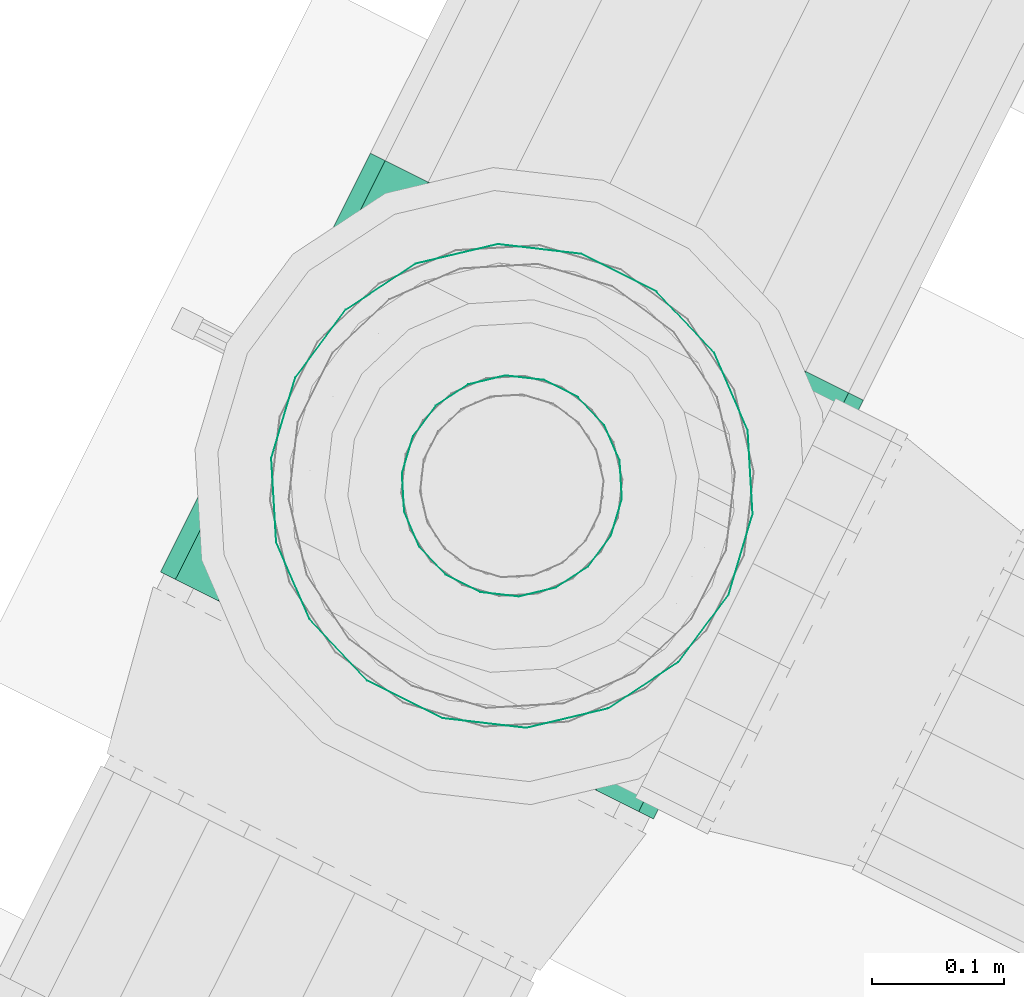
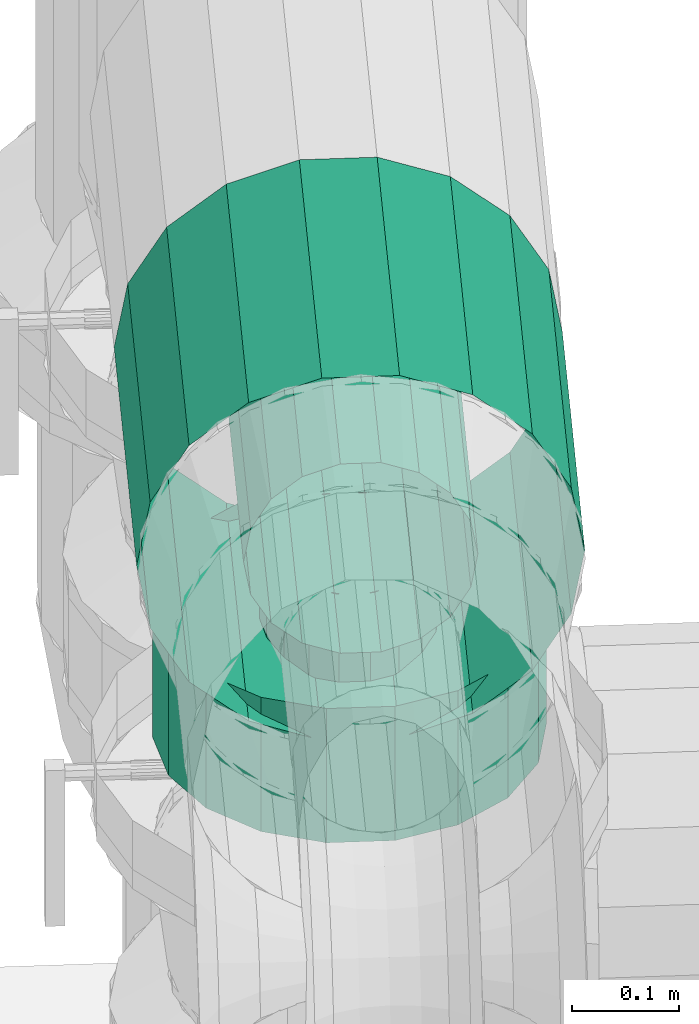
# One storey, part 102 of 152: 1 flow fitting, 1 flow segment.
"""IFC2X3 building model written with IfcOpenShell, lengths in metres."""

from ifc_helpers import new_model, si_unit, derived_unit, direction, frame, origin, place, context, subcontext, project, spatial, face_set, surface_model, source, transform, mapped, material, type_object, type_shapes, element, save


model = new_model("IFC2X3")

# Units and contexts
model_context = context("Model", 3, precision=5.2338327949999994e-05, world=origin(), true_north=direction((0.0, 1.0)))
body_context = subcontext(model_context, "Body", "Model", "MODEL_VIEW")
ifc_project = project(units=[si_unit("LENGTHUNIT", "METRE"), si_unit("AREAUNIT", "SQUARE_METRE"), si_unit("VOLUMEUNIT", "CUBIC_METRE"), si_unit("MASSUNIT", "GRAM", prefix="KILO"), si_unit("PLANEANGLEUNIT", "RADIAN"), derived_unit("THERMALTRANSMITTANCEUNIT", [(si_unit("MASSUNIT", "GRAM", prefix="KILO"), 1), (si_unit("THERMODYNAMICTEMPERATUREUNIT", "KELVIN"), -1), (si_unit("TIMEUNIT", "SECOND"), -3)])], contexts=[model_context])

# Site, building, storey
site_placement = place(None, frame((0.0, 0.0, 0.0), z_axis=(0.0, 0.0, 1.0), x_axis=(0.8939966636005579, -0.4480736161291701, 0.0)))
site = spatial("IfcSite", under=ifc_project, at=site_placement, Name="Default", CompositionType="ELEMENT")
building_placement = place(site_placement, origin())
building = spatial("IfcBuilding", under=site, at=building_placement, CompositionType="ELEMENT")
storey_placement = place(building_placement, frame((0.0, 0.0, 2.7499999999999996)))
storey = spatial("IfcBuildingStorey", under=building, at=storey_placement, Name="1. Obergeschoss", CompositionType="ELEMENT", Elevation=2.7499999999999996)

# Flow fitting
ifc_material = material(Name="IfcSurfaceStyle #9317")
distribution_element_type_1 = type_object("IfcDistributionElementType", Name="Abzweigstück 221678:Abzweigstück 221678", material=ifc_material)
shared_shape_1 = source(origin(), body_context, "Body", "SurfaceModel", [
    surface_model("IfcFaceBasedSurfaceModel", [(9.5162208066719, 6.413748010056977, 4.92230651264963), (9.522827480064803, 6.413748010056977, 4.959774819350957), (9.522827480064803, 6.769748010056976, 4.959774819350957), (9.5162208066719, 6.769748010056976, 4.92230651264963), (9.541850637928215, 6.413748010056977, 4.992723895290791), (9.541850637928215, 6.769748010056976, 4.992723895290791), (9.570995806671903, 6.413748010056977, 5.017179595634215), (9.570995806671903, 6.769748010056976, 5.017179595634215), (9.606747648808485, 6.413748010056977, 5.030192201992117), (9.606747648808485, 6.769748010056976, 5.030192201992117), (9.64479396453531, 6.413748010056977, 5.030192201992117), (9.64479396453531, 6.769748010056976, 5.030192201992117), (9.6805458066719, 6.413748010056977, 5.017179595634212), (9.6805458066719, 6.769748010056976, 5.017179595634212), (9.709690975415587, 6.413748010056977, 4.992723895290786), (9.709690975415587, 6.769748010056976, 4.992723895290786), (9.728714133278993, 6.413748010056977, 4.959774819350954), (9.728714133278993, 6.769748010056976, 4.959774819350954), (9.735320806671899, 6.413748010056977, 4.9223065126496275), (9.735320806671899, 6.769748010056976, 4.9223065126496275), (9.728714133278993, 6.413748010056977, 4.8848382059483), (9.728714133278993, 6.769748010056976, 4.8848382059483), (9.709690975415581, 6.413748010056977, 4.851889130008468), (9.709690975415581, 6.769748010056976, 4.851889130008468), (9.680545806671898, 6.413748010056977, 4.827433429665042), (9.680545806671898, 6.769748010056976, 4.827433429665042), (9.644793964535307, 6.413748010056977, 4.814420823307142), (9.644793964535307, 6.769748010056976, 4.814420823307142), (9.606747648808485, 6.413748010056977, 4.814420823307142), (9.606747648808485, 6.769748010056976, 4.814420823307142), (9.570995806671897, 6.413748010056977, 4.827433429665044), (9.570995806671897, 6.769748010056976, 4.827433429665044), (9.541850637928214, 6.413748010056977, 4.851889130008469), (9.541850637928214, 6.769748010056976, 4.851889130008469), (9.522827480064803, 6.413748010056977, 4.884838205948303), (9.522827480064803, 6.769748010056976, 4.884838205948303), (9.625770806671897, 6.675898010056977, 4.812756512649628), (9.654551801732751, 6.670823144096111, 4.816604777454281), (9.654551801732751, 6.670823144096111, 4.754306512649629), (9.625770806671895, 6.675898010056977, 4.754306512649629), (9.679861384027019, 6.656210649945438, 4.827041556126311), (9.679861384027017, 6.656210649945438, 4.754306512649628), (9.698646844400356, 6.633823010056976, 4.840512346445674), (9.698646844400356, 6.633823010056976, 4.7543065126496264), (9.708642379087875, 6.6063605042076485, 4.8506580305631), (9.708642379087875, 6.6063605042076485, 4.7543065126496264), (9.708642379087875, 6.577135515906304, 4.8506580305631), (9.708642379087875, 6.577135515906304, 4.7543065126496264), (9.698646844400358, 6.549673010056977, 4.840512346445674), (9.698646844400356, 6.549673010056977, 4.7543065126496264), (9.679861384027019, 6.527285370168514, 4.827041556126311), (9.679861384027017, 6.527285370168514, 4.754306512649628), (9.654551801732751, 6.512672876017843, 4.816604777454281), (9.654551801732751, 6.512672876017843, 4.754306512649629), (9.625770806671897, 6.507598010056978, 4.812756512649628), (9.625770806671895, 6.507598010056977, 4.754306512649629), (9.596989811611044, 6.512672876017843, 4.816604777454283), (9.59698981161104, 6.5126728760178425, 4.754306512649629), (9.571680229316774, 6.5272853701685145, 4.827041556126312), (9.571680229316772, 6.5272853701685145, 4.754306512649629), (9.552894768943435, 6.549673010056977, 4.840512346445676), (9.552894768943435, 6.549673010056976, 4.754306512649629), (9.542899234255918, 6.577135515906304, 4.850658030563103), (9.542899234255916, 6.577135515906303, 4.754306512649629), (9.54289923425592, 6.6063605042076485, 4.850658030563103), (9.542899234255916, 6.6063605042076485, 4.754306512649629), (9.552894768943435, 6.633823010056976, 4.840512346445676), (9.552894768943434, 6.633823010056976, 4.754306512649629), (9.571680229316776, 6.6562106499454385, 4.827041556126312), (9.571680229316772, 6.656210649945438, 4.754306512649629), (9.596989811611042, 6.67082314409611, 4.816604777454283), (9.59698981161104, 6.67082314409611, 4.754306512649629), (9.416220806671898, 6.413748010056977, 4.922306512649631), (9.428858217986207, 6.413748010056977, 4.99397683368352), (9.428858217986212, 6.769748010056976, 4.993976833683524), (9.416220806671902, 6.769748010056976, 4.922306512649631), (9.46524619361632, 6.413748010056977, 5.057002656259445), (9.46524619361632, 6.769748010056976, 5.057002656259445), (9.520995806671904, 6.413748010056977, 5.10378213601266), (9.520995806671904, 6.769748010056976, 5.10378213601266), (9.589382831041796, 6.413748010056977, 5.128672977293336), (9.589382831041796, 6.769748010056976, 5.128672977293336), (9.662158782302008, 6.413748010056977, 5.128672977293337), (9.662158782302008, 6.769748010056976, 5.128672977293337), (9.7305458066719, 6.413748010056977, 5.103782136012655), (9.7305458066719, 6.769748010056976, 5.103782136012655), (9.786295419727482, 6.413748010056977, 5.05700265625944), (9.786295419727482, 6.769748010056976, 5.05700265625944), (9.822683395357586, 6.413748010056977, 4.993976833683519), (9.822683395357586, 6.769748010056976, 4.993976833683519), (9.835320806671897, 6.413748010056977, 4.922306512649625), (9.835320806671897, 6.769748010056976, 4.922306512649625), (9.822683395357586, 6.413748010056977, 4.850636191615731), (9.822683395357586, 6.769748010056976, 4.850636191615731), (9.78629541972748, 6.413748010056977, 4.787610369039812), (9.78629541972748, 6.769748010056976, 4.787610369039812), (9.730545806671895, 6.413748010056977, 4.740830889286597), (9.730545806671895, 6.769748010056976, 4.740830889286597), (9.662158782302, 6.413748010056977, 4.715940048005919), (9.662158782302, 6.769748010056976, 4.715940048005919), (9.589382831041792, 6.413748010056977, 4.715940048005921), (9.589382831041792, 6.769748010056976, 4.715940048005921), (9.520995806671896, 6.413748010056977, 4.740830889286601), (9.520995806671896, 6.769748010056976, 4.740830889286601), (9.465246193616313, 6.413748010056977, 4.787610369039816), (9.465246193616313, 6.769748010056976, 4.787610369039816), (9.428858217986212, 6.413748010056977, 4.850636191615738), (9.428858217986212, 6.769748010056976, 4.850636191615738)], [face_set([[[0, 1, 2, 3]], [[1, 4, 5, 2]], [[4, 6, 7, 5]], [[6, 8, 9, 7]], [[8, 10, 11, 9]], [[10, 12, 13, 11]], [[12, 14, 15, 13]], [[14, 16, 17, 15]], [[16, 18, 19, 17]], [[18, 20, 21, 19]], [[20, 22, 23, 21]], [[22, 24, 25, 23]], [[24, 26, 27, 25]], [[26, 28, 29, 27]], [[28, 30, 31, 29]], [[30, 32, 33, 31]], [[32, 34, 35, 33]], [[34, 0, 3, 35]], [[36, 37, 38, 39]], [[37, 40, 41, 38]], [[40, 42, 43, 41]], [[42, 44, 45, 43]], [[44, 46, 47, 45]], [[46, 48, 49, 47]], [[48, 50, 51, 49]], [[50, 52, 53, 51]], [[52, 54, 55, 53]], [[54, 56, 57, 55]], [[56, 58, 59, 57]], [[58, 60, 61, 59]], [[60, 62, 63, 61]], [[62, 64, 65, 63]], [[64, 66, 67, 65]], [[66, 68, 69, 67]], [[68, 70, 71, 69]], [[70, 36, 39, 71]], [[72, 73, 74, 75]], [[73, 76, 77, 74]], [[76, 78, 79, 77]], [[78, 80, 81, 79]], [[80, 82, 83, 81]], [[82, 84, 85, 83]], [[84, 86, 87, 85]], [[86, 88, 89, 87]], [[88, 90, 91, 89]], [[90, 92, 93, 91]], [[92, 94, 95, 93]], [[94, 96, 97, 95]], [[96, 98, 99, 97]], [[98, 100, 101, 99]], [[100, 102, 103, 101]], [[102, 104, 105, 103]], [[104, 106, 107, 105]], [[106, 72, 75, 107]]])]),
])
type_shapes(distribution_element_type_1, [shared_shape_1])
flow_fitting_placement = place(storey_placement, frame((0.0, 0.0, -2.7499999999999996)))
element("IfcFlowFitting", 1, at=flow_fitting_placement, inside=storey, type_object=distribution_element_type_1, material=ifc_material, Name="Abzweigstück", ObjectType="Abzweigstück", context=body_context, shape_type="MappedRepresentation", body=[
    mapped(shared_shape_1, transform((0.0, 0.0, 0.0), scale=1.0)),
])

# Flow segment
distribution_element_type_2 = type_object("IfcDistributionElementType", Name="Stahlrohr nach DIN 2448 222190:Stahlrohr nach DIN 2448 222190", material=ifc_material)
shared_shape_2 = source(origin(), body_context, "Body", "SurfaceModel", [
    surface_model("IfcFaceBasedSurfaceModel", [(9.7099208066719, 6.5917480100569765, 4.754306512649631), (9.704845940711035, 6.56296701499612, 4.754306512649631), (9.704845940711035, 6.56296701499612, 4.60130651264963), (9.709920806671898, 6.591748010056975, 4.60130651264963), (9.690233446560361, 6.537657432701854, 4.754306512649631), (9.690233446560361, 6.537657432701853, 4.60130651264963), (9.667845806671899, 6.5188719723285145, 4.754306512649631), (9.6678458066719, 6.518871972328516, 4.60130651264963), (9.64038330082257, 6.508876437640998, 4.754306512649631), (9.640383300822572, 6.508876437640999, 4.60130651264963), (9.611158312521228, 6.508876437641, 4.754306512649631), (9.61115831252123, 6.508876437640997, 4.60130651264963), (9.583695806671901, 6.518871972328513, 4.754306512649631), (9.5836958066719, 6.518871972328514, 4.60130651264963), (9.561308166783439, 6.537657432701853, 4.754306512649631), (9.561308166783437, 6.537657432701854, 4.60130651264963), (9.546695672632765, 6.56296701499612, 4.754306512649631), (9.546695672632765, 6.56296701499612, 4.60130651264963), (9.541620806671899, 6.591748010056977, 4.754306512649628), (9.541620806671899, 6.591748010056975, 4.6013065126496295), (9.546695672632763, 6.620529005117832, 4.754306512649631), (9.546695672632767, 6.62052900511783, 4.6013065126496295), (9.561308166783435, 6.645838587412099, 4.754306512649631), (9.561308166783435, 6.645838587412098, 4.60130651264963), (9.583695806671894, 6.664624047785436, 4.754306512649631), (9.583695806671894, 6.664624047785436, 4.60130651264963), (9.611158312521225, 6.674619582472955, 4.754306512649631), (9.611158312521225, 6.674619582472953, 4.60130651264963), (9.640383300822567, 6.674619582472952, 4.754306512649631), (9.640383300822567, 6.674619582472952, 4.60130651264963), (9.667845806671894, 6.664624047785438, 4.754306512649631), (9.667845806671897, 6.664624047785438, 4.60130651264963), (9.690233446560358, 6.6458385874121, 4.754306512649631), (9.690233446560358, 6.645838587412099, 4.60130651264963), (9.70484594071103, 6.620529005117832, 4.754306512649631), (9.70484594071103, 6.620529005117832, 4.60130651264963), (9.809920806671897, 6.591748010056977, 4.754306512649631), (9.798815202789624, 6.528765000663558, 4.754306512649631), (9.798815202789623, 6.528765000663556, 4.60130651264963), (9.809920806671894, 6.5917480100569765, 4.60130651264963), (9.766837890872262, 6.4733786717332, 4.754306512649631), (9.766837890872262, 6.4733786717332, 4.60130651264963), (9.7178458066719, 6.432269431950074, 4.754306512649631), (9.717845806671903, 6.432269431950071, 4.60130651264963), (9.65774811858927, 6.410395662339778, 4.754306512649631), (9.65774811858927, 6.410395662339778, 4.60130651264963), (9.593793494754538, 6.410395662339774, 4.754306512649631), (9.593793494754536, 6.410395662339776, 4.60130651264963), (9.533695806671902, 6.43226943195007, 4.754306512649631), (9.533695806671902, 6.43226943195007, 4.60130651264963), (9.484703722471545, 6.4733786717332, 4.754306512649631), (9.484703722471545, 6.4733786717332, 4.60130651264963), (9.452726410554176, 6.528765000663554, 4.754306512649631), (9.452726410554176, 6.528765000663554, 4.60130651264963), (9.441620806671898, 6.591748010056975, 4.754306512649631), (9.4416208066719, 6.591748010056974, 4.60130651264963), (9.452726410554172, 6.654731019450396, 4.754306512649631), (9.452726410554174, 6.654731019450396, 4.60130651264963), (9.484703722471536, 6.710117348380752, 4.754306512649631), (9.484703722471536, 6.710117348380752, 4.60130651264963), (9.533695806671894, 6.751226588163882, 4.754306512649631), (9.533695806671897, 6.75122658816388, 4.60130651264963), (9.59379349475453, 6.773100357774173, 4.754306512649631), (9.593793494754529, 6.773100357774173, 4.60130651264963), (9.657748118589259, 6.773100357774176, 4.754306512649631), (9.657748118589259, 6.773100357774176, 4.60130651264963), (9.717845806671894, 6.75122658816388, 4.754306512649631), (9.717845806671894, 6.75122658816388, 4.60130651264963), (9.766837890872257, 6.710117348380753, 4.754306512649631), (9.766837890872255, 6.710117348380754, 4.60130651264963), (9.798815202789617, 6.6547310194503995, 4.754306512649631), (9.798815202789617, 6.654731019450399, 4.60130651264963)], [face_set([[[0, 1, 2, 3]], [[1, 4, 5, 2]], [[4, 6, 7, 5]], [[6, 8, 9, 7]], [[8, 10, 11, 9]], [[10, 12, 13, 11]], [[12, 14, 15, 13]], [[14, 16, 17, 15]], [[16, 18, 19, 17]], [[18, 20, 21, 19]], [[20, 22, 23, 21]], [[22, 24, 25, 23]], [[24, 26, 27, 25]], [[26, 28, 29, 27]], [[28, 30, 31, 29]], [[30, 32, 33, 31]], [[32, 34, 35, 33]], [[34, 0, 3, 35]], [[36, 37, 38, 39]], [[37, 40, 41, 38]], [[40, 42, 43, 41]], [[42, 44, 45, 43]], [[44, 46, 47, 45]], [[46, 48, 49, 47]], [[48, 50, 51, 49]], [[50, 52, 53, 51]], [[52, 54, 55, 53]], [[54, 56, 57, 55]], [[56, 58, 59, 57]], [[58, 60, 61, 59]], [[60, 62, 63, 61]], [[62, 64, 65, 63]], [[64, 66, 67, 65]], [[66, 68, 69, 67]], [[68, 70, 71, 69]], [[70, 36, 39, 71]]])]),
])
type_shapes(distribution_element_type_2, [shared_shape_2])
flow_segment_placement = place(storey_placement, frame((0.0, 0.0, -2.7499999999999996)))
element("IfcFlowSegment", 2, at=flow_segment_placement, inside=storey, type_object=distribution_element_type_2, material=ifc_material, Name="Stahlrohr nach DIN 2448", ObjectType="Stahlrohr nach DIN 2448", context=body_context, shape_type="MappedRepresentation", body=[
    mapped(shared_shape_2, transform((0.0, 0.0, 0.0), scale=1.0)),
])

save(model, "model.ifc")
